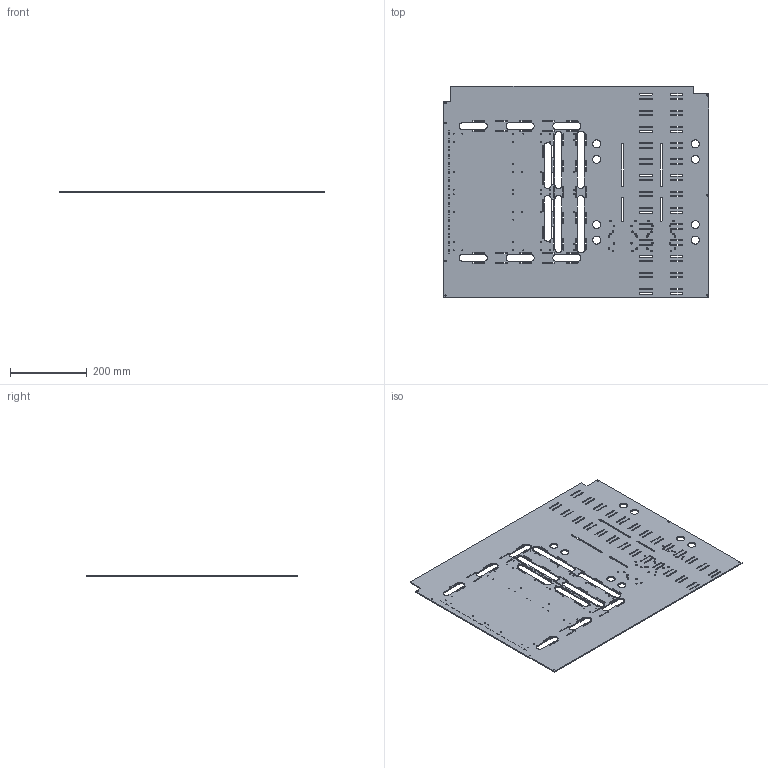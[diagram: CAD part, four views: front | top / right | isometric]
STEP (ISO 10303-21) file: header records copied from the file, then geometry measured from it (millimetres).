
FILE_DESCRIPTION((''), '2;1');
FILE_NAME( 'output_file', '2009-06-07T17:44:47-07:00', (''), (''), 'SolveSpace', '', '');
FILE_SCHEMA (('CONFIG_CONTROL_DESIGN'));
Length unit declared in the file: millimetre
Products named in the file (1): 1
Bounding box: 691 x 550 x 3 mm (x, y, z)
Surface area: 726444.1 mm2 (no closed solid volume)
Topology: 0 solids, 1142 shells, 1142 faces, 6840 edges, 6840 vertices
Faces by surface type: bspline 1142
Entity records: 54968 total; most frequent: CARTESIAN_POINT 30105, VERTEX_POINT 6840, EDGE_CURVE 6840, ORIENTED_EDGE 6840, EDGE_LOOP 1592, FACE_OUTER_BOUND 1142, ADVANCED_FACE 1142, FACE_BOUND 450
